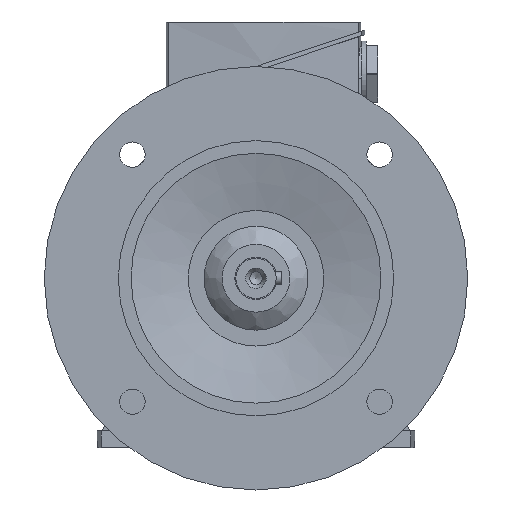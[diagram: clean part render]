
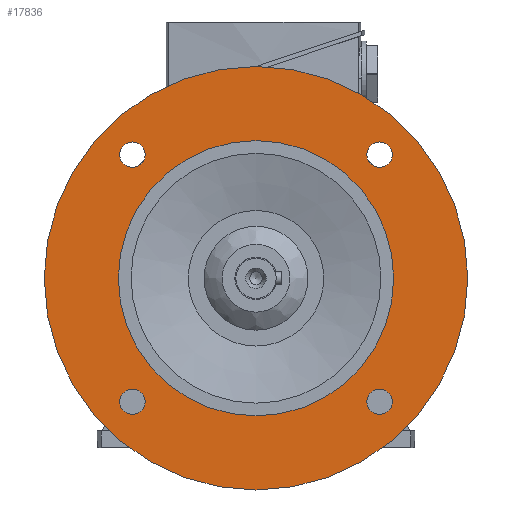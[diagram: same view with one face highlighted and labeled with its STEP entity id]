
A CAD part, left-side view. The second image highlights one B-rep face of the part: STEP entity #17836.
In plain terms, the highlighted planar face has unit normal (-1, 0, 0).
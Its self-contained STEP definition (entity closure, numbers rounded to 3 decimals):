
#626 = VERTEX_POINT ( 'NONE', #15539 ) ;
#651 = VERTEX_POINT ( 'NONE', #29039 ) ;
#658 = VERTEX_POINT ( 'NONE', #13234 ) ;
#677 = VERTEX_POINT ( 'NONE', #26733 ) ;
#708 = VERTEX_POINT ( 'NONE', #10905 ) ;
#737 = VERTEX_POINT ( 'NONE', #24502 ) ;
#2511 = EDGE_LOOP ( 'NONE', ( #22293 ) ) ;
#5770 = FACE_BOUND ( 'NONE', #24522, .T. ) ;
#5795 = FACE_BOUND ( 'NONE', #16751, .T. ) ;
#5838 = FACE_OUTER_BOUND ( 'NONE', #17486, .T. ) ;
#5868 = FACE_BOUND ( 'NONE', #15386, .T. ) ;
#5892 = FACE_BOUND ( 'NONE', #12497, .T. ) ;
#5898 = FACE_BOUND ( 'NONE', #2511, .T. ) ;
#8101 = CIRCLE ( 'NONE', #18778, 65. ) ;
#8185 = CIRCLE ( 'NONE', #18809, 100. ) ;
#8282 = CIRCLE ( 'NONE', #18813, 6. ) ;
#8366 = CIRCLE ( 'NONE', #18896, 6. ) ;
#8420 = CIRCLE ( 'NONE', #18856, 6. ) ;
#9686 = CIRCLE ( 'NONE', #19151, 6. ) ;
#10905 = CARTESIAN_POINT ( 'NONE',  ( -27., 58.336, -64.336 ) ) ;
#11989 = ORIENTED_EDGE ( 'NONE', *, *, #20186, .T. ) ;
#12497 = EDGE_LOOP ( 'NONE', ( #23349 ) ) ;
#13234 = CARTESIAN_POINT ( 'NONE',  ( -27., -58.336, 52.336 ) ) ;
#13434 = ORIENTED_EDGE ( 'NONE', *, *, #20101, .T. ) ;
#15386 = EDGE_LOOP ( 'NONE', ( #23701 ) ) ;
#15539 = CARTESIAN_POINT ( 'NONE',  ( -27., 0., 65. ) ) ;
#16751 = EDGE_LOOP ( 'NONE', ( #11989 ) ) ;
#17486 = EDGE_LOOP ( 'NONE', ( #19126 ) ) ;
#17836 = ADVANCED_FACE ( 'NONE', ( #5795, #5838, #5868, #5898, #5770, #5892 ), #22071, .T. ) ;
#17908 = DIRECTION ( 'NONE',  ( 0., 0., 1. ) ) ;
#18225 = CARTESIAN_POINT ( 'NONE',  ( -27., 82.5, 0. ) ) ;
#18778 = AXIS2_PLACEMENT_3D ( 'NONE', #25227, #25168, #25135 ) ;
#18809 = AXIS2_PLACEMENT_3D ( 'NONE', #25471, #25447, #25417 ) ;
#18813 = AXIS2_PLACEMENT_3D ( 'NONE', #25718, #25683, #25678 ) ;
#18856 = AXIS2_PLACEMENT_3D ( 'NONE', #25942, #25914, #25879 ) ;
#18896 = AXIS2_PLACEMENT_3D ( 'NONE', #26178, #26144, #26119 ) ;
#19126 = ORIENTED_EDGE ( 'NONE', *, *, #20150, .T. ) ;
#19151 = AXIS2_PLACEMENT_3D ( 'NONE', #27373, #27369, #27310 ) ;
#19728 = DIRECTION ( 'NONE',  ( -1., 0., 0. ) ) ;
#20048 = EDGE_CURVE ( 'NONE', #737, #737, #9686, .T. ) ;
#20101 = EDGE_CURVE ( 'NONE', #708, #708, #8366, .T. ) ;
#20134 = EDGE_CURVE ( 'NONE', #677, #677, #8420, .T. ) ;
#20140 = EDGE_CURVE ( 'NONE', #658, #658, #8282, .T. ) ;
#20150 = EDGE_CURVE ( 'NONE', #651, #651, #8185, .T. ) ;
#20186 = EDGE_CURVE ( 'NONE', #626, #626, #8101, .T. ) ;
#22071 = PLANE ( 'NONE',  #24230 ) ;
#22293 = ORIENTED_EDGE ( 'NONE', *, *, #20134, .T. ) ;
#23349 = ORIENTED_EDGE ( 'NONE', *, *, #20048, .T. ) ;
#23701 = ORIENTED_EDGE ( 'NONE', *, *, #20140, .T. ) ;
#24230 = AXIS2_PLACEMENT_3D ( 'NONE', #18225, #19728, #17908 ) ;
#24502 = CARTESIAN_POINT ( 'NONE',  ( -27., -58.336, -64.336 ) ) ;
#24522 = EDGE_LOOP ( 'NONE', ( #13434 ) ) ;
#25135 = DIRECTION ( 'NONE',  ( 0., 0., 1. ) ) ;
#25168 = DIRECTION ( 'NONE',  ( 1., 0., 0. ) ) ;
#25227 = CARTESIAN_POINT ( 'NONE',  ( -27., 0., 0. ) ) ;
#25417 = DIRECTION ( 'NONE',  ( 0., 0., 1. ) ) ;
#25447 = DIRECTION ( 'NONE',  ( -1., 0., 0. ) ) ;
#25471 = CARTESIAN_POINT ( 'NONE',  ( -27., 0., 0. ) ) ;
#25678 = DIRECTION ( 'NONE',  ( 0., 0., -1. ) ) ;
#25683 = DIRECTION ( 'NONE',  ( 1., 0., 0. ) ) ;
#25718 = CARTESIAN_POINT ( 'NONE',  ( -27., -58.336, 58.336 ) ) ;
#25879 = DIRECTION ( 'NONE',  ( 0., 0., -1. ) ) ;
#25914 = DIRECTION ( 'NONE',  ( 1., 0., 0. ) ) ;
#25942 = CARTESIAN_POINT ( 'NONE',  ( -27., 58.336, 58.336 ) ) ;
#26119 = DIRECTION ( 'NONE',  ( 0., 0., -1. ) ) ;
#26144 = DIRECTION ( 'NONE',  ( 1., 0., 0. ) ) ;
#26178 = CARTESIAN_POINT ( 'NONE',  ( -27., 58.336, -58.336 ) ) ;
#26733 = CARTESIAN_POINT ( 'NONE',  ( -27., 58.336, 52.336 ) ) ;
#27310 = DIRECTION ( 'NONE',  ( 0., 0., -1. ) ) ;
#27369 = DIRECTION ( 'NONE',  ( 1., 0., 0. ) ) ;
#27373 = CARTESIAN_POINT ( 'NONE',  ( -27., -58.336, -58.336 ) ) ;
#29039 = CARTESIAN_POINT ( 'NONE',  ( -27., 0., 100. ) ) ;
